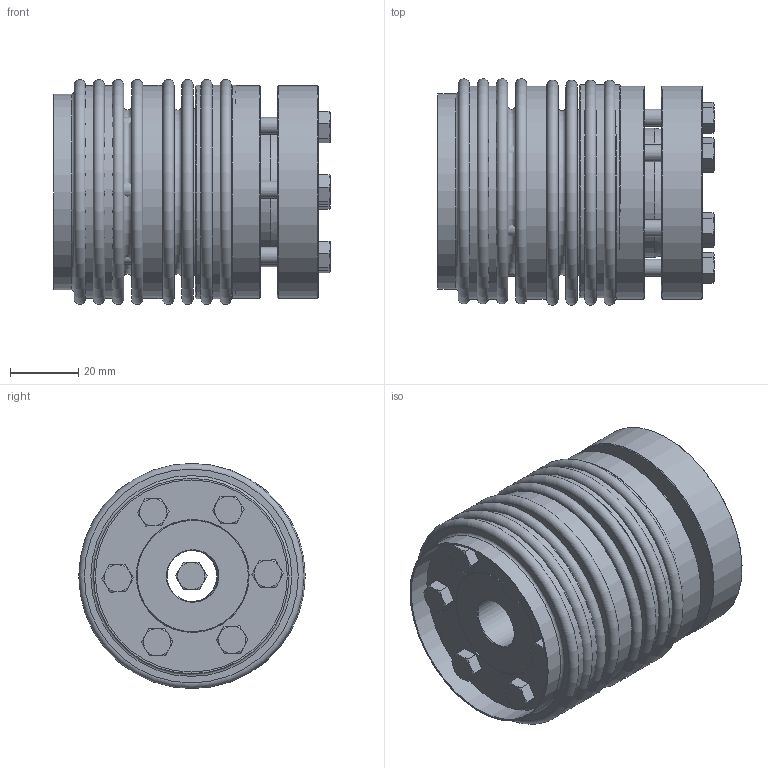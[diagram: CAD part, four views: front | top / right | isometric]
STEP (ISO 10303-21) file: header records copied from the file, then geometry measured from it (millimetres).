
FILE_DESCRIPTION( ( 'Unknown' ), '1' );
FILE_NAME( 'C:/Dokumente und Einstellungen/Sven/Desktop/homepage/cad - homepage/KB6/KB6-60-78.stp', 'Unknown', ( 'Unknown' ), ( 'Unknown' ), 'XStep 1.0', 'Unknown', ' ' );
FILE_SCHEMA( ( 'automotive_design' ) );
Length unit declared in the file: millimetre
Products named in the file (5): Assem1; DR60_Standard; Hex Screw GradeC_DIN_ISO 4018 - M5 x 25-NN; BA60_Standard; BK60_Standard
Bounding box: 81.06 x 66.41 x 66 mm (x, y, z)
Volume: 209171.8 mm3; surface area: 128581.5 mm2
Topology: 21 solids, 21 shells, 387 faces, 799 edges, 502 vertices
Faces by surface type: plane 168, cone 118, cylinder 69, torus 32
Full cylindrical faces by diameter (mm): 4.2 x18, 5 x13, 5.5 x18, 15 x3, 37.937 x3, 56.3 x4, 57.3 x4, 62.5 x6
Entity records: 2244 total; most frequent: DIRECTION 396, CARTESIAN_POINT 353, ORIENTED_EDGE 226, AXIS2_PLACEMENT_3D 192, EDGE_LOOP 180, FACE_OUTER_BOUND 122, EDGE_CURVE 113, VERTEX_POINT 101
